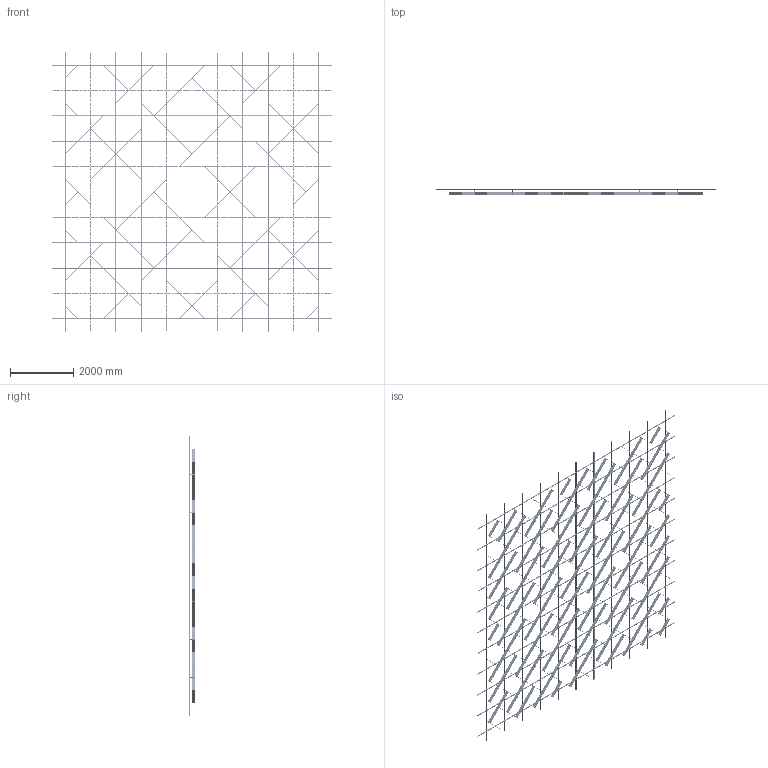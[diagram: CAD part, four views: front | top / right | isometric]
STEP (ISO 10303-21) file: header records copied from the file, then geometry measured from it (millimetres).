
FILE_DESCRIPTION (( 'STEP AP203' ), '1' );
FILE_NAME ('19 ìèäè ñ ïñ.step', '2025-11-26T11:45:36', ( '' ), ( '' ), 'SwSTEP 2.0', 'SolidWorks 2020', '' );
FILE_SCHEMA (( 'CONFIG_CONTROL_DESIGN' ));
Length unit declared in the file: millimetre
Products named in the file (5): SS.SEMA.2400 - Ñèìà-ïðîôèëü — îáðåçàí 1600; Ñèñòåìà â çîíå 8000õ8000; Var19; 19 ìèäè ñ ïñ; SS.SEMA.2400 - Ñèìà-ïðîôèëü
Assembly tree (90 placements, depth 3):
  19 ìèäè ñ ïñ
    Ñèñòåìà â çîíå 8000õ8000
      SS.SEMA.2400 - Ñèìà-ïðîôèëü  x66
      SS.SEMA.2400 - Ñèìà-ïðîôèëü — îáðåçàí 1600  x22
    Var19
Bounding box: 8800 x 205 x 8800 mm (x, y, z)
Volume: 167691803.9 mm3; surface area: 69349721.3 mm2
Topology: 1432 solids, 1432 shells, 22804 faces, 58412 edges, 38472 vertices
Faces by surface type: cylinder 13618, plane 9186
Entity records: 162207 total; most frequent: CARTESIAN_POINT 41210, ORIENTED_EDGE 23672, DIRECTION 22002, EDGE_CURVE 11836, AXIS2_PLACEMENT_3D 10752, VERTEX_POINT 7880, B_SPLINE_CURVE_WITH_KNOTS 7328, EDGE_LOOP 6810
